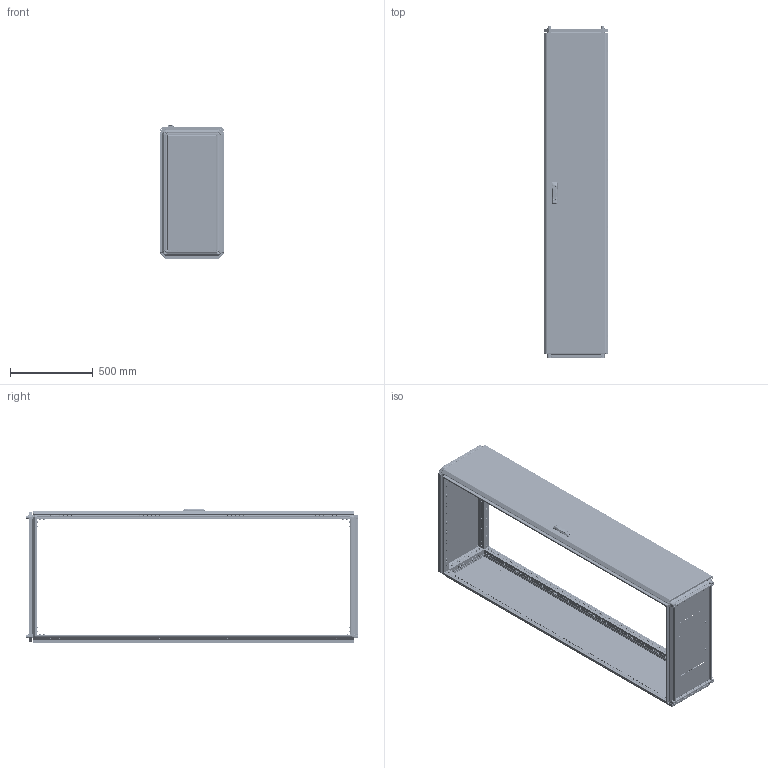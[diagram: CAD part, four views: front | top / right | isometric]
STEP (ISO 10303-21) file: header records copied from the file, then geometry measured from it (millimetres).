
FILE_DESCRIPTION (( 'STEP AP203' ), '1' );
FILE_NAME ('MA1.000.040820.10.00 AleSta2048 Øêàô AleSta 400õ800õ2000.STEP', '2024-08-23T08:23:11', ( '' ), ( '' ), 'SwSTEP 2.0', 'SolidWorks 2021', '' );
FILE_SCHEMA (( 'CONFIG_CONTROL_DESIGN' ));
Length unit declared in the file: millimetre
Products named in the file (50): MA1.101.060620.10.01 Ïîëîòíî êðûøè 600õ600_400å800; Øïèëüêà Ì6õ12_˜¯¨«ìª  Œ6å12; Øïèëüêà Ì6õ12_˜¯¨«ìª  Œ6å16; Óïëîòíèòåëü ïàíåëè íèæíåé_  ‚=2000; MA1.101.060620.00.02 Ïðîôèëü ïîïåðå÷íûé ñâàðíîé_00 L=298 (˜=400); MA1.200.060620.31.02 Ðåéêà íà äâåðü âåðòèêàëüíàÿ Â = 2000_‚ =2000; MA1.101.060620.20.00 Íèæíÿÿ ïàíåëü 600õ600_400å800; Ãàéêà ñàìîêîíòðÿùàÿñÿ ñ íåéëîíîâîé âñòàâêîé Ì6 DIN 985, êëàññ ïðî÷íîñòè 8, îöèíêîâàííàÿ ñòàëü_Œ6; MA1.101.060620.00.02 Ïðîôèëü ïîïåðå÷íûé ñâàðíîé_02 L=698 (˜=800) ; Âèíò ñ âí. øåñòèãðàííèêîì M12 DIN912_•30; MA1.100.060620.00.01 Ñîåäèíèòåëü óãëîâîé_00; Âèíò ñàìîíàðåçàþùèé ñ ïîòàéíîé ãîëîâêîé Ì5x14 DIN 7500 M TORX, êëàññ ïðî÷íîñòè 8.8, îöèíêîâàííàÿ ñòàëü_Œ5å12; Ïåòëÿ íà äâåðü ï-îáðàçíàÿ; Ãàéêà ñàìîêîíòðÿùàÿñÿ ñ íåéëîíîâîé âñòàâêîé Ì6 DIN 985, êëàññ ïðî÷íîñòè 8, îöèíêîâàííàÿ ñòàëü_Œ5; êðåïëåíèå_êðóãëîé_òÿãè_RG1020-1.stp; MA1.101.060620.20.02 Çàêðûòèå íèæíåé ïàíåëè 600õ600_400x800; MA1.101.060620.20.01 Ïîëîòíî íèæíåé ïàíåëè 600õ600_400å800; MS463-2-3(1); Íàâåñêà íà êîðïóñ ïîä êëåïêó; Áîëò øåñòèãðàííûé Ì5õ12 DIN 933, êëàññ ïðî÷íîñòè 8.8, îöèíêîâàííàÿ ñòàëü; Øàéáà ñòîïîðíàÿ ñ íàðóæíûìè çóáöàìè SCHNORR, òèï VS öèíêîâûå õëîïüÿ Ì6 O6,4 ART 88121_Œ6; MA1.200.060620.11.01 Ïîëîòíî çàäíåé ïàíåëè 2000õ600_2000å400; Âèíò ðåçüáîâûäàâëèâàþùèé Ì6õ12 DIN 7500E_Œ6å10; 7380-2 ISO Âèíòû ñ ïîëóêðóãëîé ãîëîâêîé ñ ôëàíöåì ñ âíóòðåííèì øåñòèãðàííèêîì Ì4õ10; äåðæàòåëü_êðóãëîé_òÿãèRG002-RG1010-2-i-RG1010-3-.stp; ﾘ琺矜 65ﾃ 019 ﾃﾎﾑﾒ 6402-70_12; MA1.200.060620.31.04 ðèãåëü çàìêà äâåðè; 諘蜱齁罻 022 瀁錒瀔隮; MA1.000.040820.10.00 AleSta2048 Øêàô AleSta 400õ800õ2000; Øïèëüêà Ì6õ12_˜¯¨«ìª  Œ6å20; MA1.200.060620.31.05 Óãëîâîé óïîð äâåðíîé òÿãè; Îñü ïåòëè 4õ52_‚¨­â A.M4x0,5x40 ƒŽ‘’ 11644-75; MA1.200.060620.30.00 AleSta-D20M600 Äâåðü ñïëîøíàÿ äëÿ øêàôîâ ALESTA ÂõØ 2000õ600_2000å400; Âèíò ñàìîíàðåçàþùèé ñ ïîòàéíîé ãîëîâêîé Ì5x14 DIN 7500 M TORX, êëàññ ïðî÷íîñòè 8.8, îöèíêîâàííàÿ ñòàëü_Œ5å14; MA1.200.060620.10.00 AleSta-PR206  Ïàíåëü çàäíÿÿ, äëÿ øêàôîâ ALESTA, 2000 x 600_2000å400; MA1.200.060620.31.00 Äâåðü ñïëîøíàÿ äëÿ øêàôîâ ALESTA ÂõØ 2000õ600_2000å400; MA1.101.060620.10.00 Êðûøà 600x600_400å800; òÿãà_lg001-2.STEP_‚=2000; Âèíò_ðåçüáîâûäàâëèâàþùèé_Ì5õ12_DIN 7500E_00; MA1.200.060620.31.03 Ðåéêà íà äâåðü ãîðèçîíòàëüíàÿ Ø = 600_˜=400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
Assembly tree (337 placements, depth 4):
  MA1.000.040820.10.00 AleSta2048 Øêàô AleSta 400õ800õ2000
    MA1.101.060620.00.00 AleSta-RB66 Êîìïëåêò êðûøà è îñíîâàíèå_400å800
      MA1.101.060620.00.02 Ïðîôèëü ïîïåðå÷íûé ñâàðíîé_02 L=698 (˜=800)   x4
      MA1.101.060620.00.02 Ïðîôèëü ïîïåðå÷íûé ñâàðíîé_00 L=298 (˜=400)  x4
      MA1.101.060620.10.00 Êðûøà 600x600_400å800
        MA1.101.060620.10.01 Ïîëîòíî êðûøè 600õ600_400å800
        Øïèëüêà Ì6õ12_˜¯¨«ìª  Œ6å12  x4
        Óïëîòíèòåëü ïàíåëè íèæíåé_400å800
      MA1.101.060620.20.00 Íèæíÿÿ ïàíåëü 600õ600_400å800
        MA1.101.060620.20.01 Ïîëîòíî íèæíåé ïàíåëè 600õ600_400å800
        ﾇﾀﾊﾋﾅﾏﾊﾀ ﾃﾀﾅﾗﾍﾀﾟ ﾘﾅﾑﾒﾈﾃﾐﾀﾍﾍﾀﾟ ﾑ ﾓﾌﾅﾍﾜﾘﾅﾍﾍﾛﾌ ﾁﾎﾐﾒﾎﾌ M4 X 11 (0.5-2.5 ﾌﾌ) HEX U-S ﾖﾈﾍﾊ  x4
        MA1.101.060620.20.02 Çàêðûòèå íèæíåé ïàíåëè 600õ600_400x800  x2
        7380-2 ISO Âèíòû ñ ïîëóêðóãëîé ãîëîâêîé ñ ôëàíöåì ñ âíóòðåííèì øåñòèãðàííèêîì Ì4õ10  x4
      Âèíò_ðåçüáîâûäàâëèâàþùèé_Ì5õ12_DIN 7500E_Œ5å12  x8
      MA1.100.060620.00.01 Ñîåäèíèòåëü óãëîâîé_00  x8
      Âèíò ñ âí. øåñòèãðàííèêîì M12 DIN912_•30  x4
      Âèíò ðåçüáîâûäàâëèâàþùèé Ì6õ12 DIN 7500E_Œ6å10  x96
      ﾘ琺矜 01.019 ﾃﾎﾑﾒ11371-78_12  x4
      ﾘ琺矜 65ﾃ 019 ﾃﾎﾑﾒ 6402-70_12  x4
      Øàéáà ñòîïîðíàÿ ñ íàðóæíûìè çóáöàìè SCHNORR, òèï VS öèíêîâûå õëîïüÿ Ì6 O6,4 ART 88121_Œ6  x80
    MA1.102.060620.00.00 AleSta-VG2000 Ñòîéêè âåðòèêàëüíûå, Â=2000ìì  (4øò)_400å800
      MA1.102.060620.00.01 Ïðîôèëü âåðòèêàëüíûé ñâàðíîé_04 L=1898 (‚=2000)  x4
    MA1.200.060620.10.00 AleSta-PR206  Ïàíåëü çàäíÿÿ, äëÿ øêàôîâ ALESTA, 2000 x 600_2000å400
      MA1.200.060620.11.00 Ïàíåëü çàäíÿÿ, äëÿ øêàôîâ AleSta, 2000x600_2000å400
        MA1.200.060620.11.01 Ïîëîòíî çàäíåé ïàíåëè 2000õ600_2000å400
        Óïëîòíèòåëü ïàíåëè íèæíåé_  ‚=2000
        Øïèëüêà Ì6õ12_˜¯¨«ìª  Œ6å12  x4
      Âèíò ñàìîíàðåçàþùèé ñ ïîòàéíîé ãîëîâêîé Ì5x14 DIN 7500 M TORX, êëàññ ïðî÷íîñòè 8.8, îöèíêîâàííàÿ ñòàëü_Œ5å14  x8
    MA1.200.060620.30.00 AleSta-D20M600 Äâåðü ñïëîøíàÿ äëÿ øêàôîâ ALESTA ÂõØ 2000õ600_2000å400
      MA1.200.060620.31.00 Äâåðü ñïëîøíàÿ äëÿ øêàôîâ ALESTA ÂõØ 2000õ600_2000å400
        MA1.200.060620.31.01 Ïîëîòíî äâåðè ñïëîøíîé 2000õ600_2000å400
        Óïëîòíèòåëü ïàíåëè íèæíåé_  ‚=2000
        Øïèëüêà Ì6õ12_˜¯¨«ìª  Œ6å20  x16
        Øïèëüêà Ì6õ12_˜¯¨«ìª  Œ6å16  x4
        Ïåòëÿ íà äâåðü ï-îáðàçíàÿ  x4
      MA1.200.060620.31.03 Ðåéêà íà äâåðü ãîðèçîíòàëüíàÿ Ø = 600_˜=400  x2
      諘蜱齁罻 022 瀁錒瀔隮  x4
      MA1.200.060620.31.02 Ðåéêà íà äâåðü âåðòèêàëüíàÿ Â = 2000_‚ =2000  x2
      äåðæàòåëü_êðóãëîé_òÿãèRG002-RG1010-2-i-RG1010-3-.stp  x2
      òÿãà_lg001-2.STEP_‚=2000  x2
      êðåïëåíèå_êðóãëîé_òÿãè_RG1020-1.stp  x2
      MS463-2-3(1)
      Ãàéêà ñàìîêîíòðÿùàÿñÿ ñ íåéëîíîâîé âñòàâêîé Ì6 DIN 985, êëàññ ïðî÷íîñòè 8, îöèíêîâàííàÿ ñòàëü_Œ6  x16
      Ãàéêà ñàìîêîíòðÿùàÿñÿ ñ íåéëîíîâîé âñòàâêîé Ì6 DIN 985, êëàññ ïðî÷íîñòè 8, îöèíêîâàííàÿ ñòàëü_Œ5  x2
      Áîëò øåñòèãðàííûé Ì5õ12 DIN 933, êëàññ ïðî÷íîñòè 8.8, îöèíêîâàííàÿ ñòàëü  x2
      MA1.200.060620.31.04 ðèãåëü çàìêà äâåðè
      MA1.200.060620.31.05 Óãëîâîé óïîð äâåðíîé òÿãè  x2
      Âèíò_ðåçüáîâûäàâëèâàþùèé_Ì5õ12_DIN 7500E_00  x2
      Íàâåñêà íà êîðïóñ ïîä êëåïêó  x4
      Îñü ïåòëè 4õ52_‚¨­â A.M4x0,5x40 ƒŽ‘’ 11644-75  x4
      Âèíò ñàìîíàðåçàþùèé ñ ïîòàéíîé ãîëîâêîé Ì5x14 DIN 7500 M TORX, êëàññ ïðî÷íîñòè 8.8, îöèíêîâàííàÿ ñòàëü_Œ5å12  x8
  Ïðîáêà ïëàñòèêîâàÿ óíèâåðñàëüíàÿ ïîä îòâåðñòèå 4,5 ìì, ñåðèÿ ST, öâåò áåñöâåòíûé – ST4,5
Bounding box: 392 x 2010.9 x 816.8 mm (x, y, z)
Volume: 7984475.9 mm3; surface area: 9771711.7 mm2
Topology: 364 solids, 378 shells, 23787 faces, 61398 edges, 38440 vertices
Faces by surface type: plane 14249, cylinder 6845, bspline 921, cone 845, torus 829, sphere 98
Entity records: 249304 total; most frequent: CARTESIAN_POINT 79945, ORIENTED_EDGE 32402, DIRECTION 31856, EDGE_CURVE 16218, AXIS2_PLACEMENT_3D 10912, VERTEX_POINT 10109, LINE 10032, VECTOR 10032
